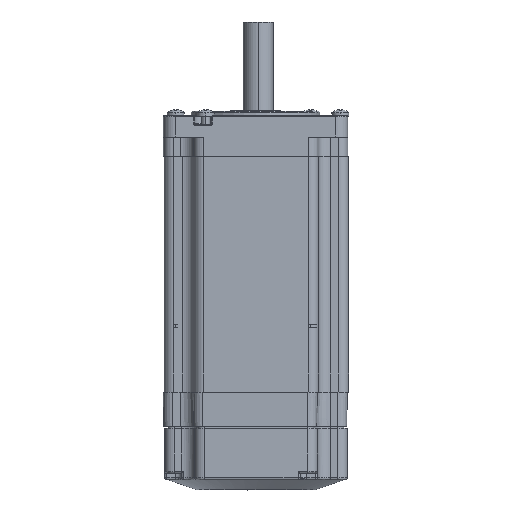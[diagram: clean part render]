
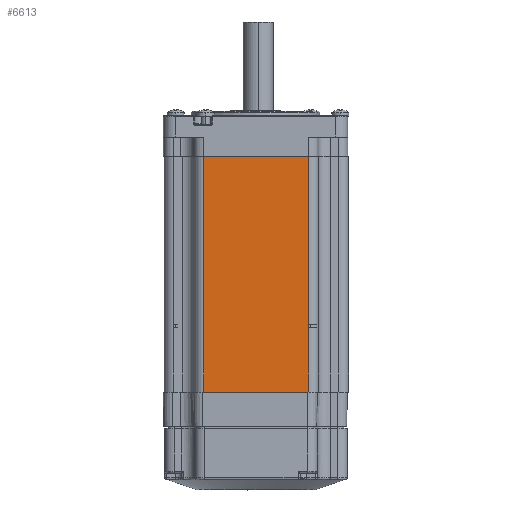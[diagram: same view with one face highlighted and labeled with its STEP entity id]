
A CAD part, front view. The second image highlights one B-rep face of the part: STEP entity #6613.
In plain terms, the highlighted planar face has unit normal (0, -1, 0).
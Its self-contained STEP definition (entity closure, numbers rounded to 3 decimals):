
#145 = ORIENTED_EDGE ( 'NONE', *, *, #56280, .T. ) ;
#2645 = CARTESIAN_POINT ( 'NONE',  ( -25.336, -41.348, -3.669 ) ) ;
#2894 = CARTESIAN_POINT ( 'NONE',  ( 23.664, -41.348, -3.669 ) ) ;
#3914 = LINE ( 'NONE', #15395, #40607 ) ;
#4253 = EDGE_CURVE ( 'NONE', #31290, #9864, #3914, .T. ) ;
#4847 = EDGE_LOOP ( 'NONE', ( #145, #41519, #6075, #53770 ) ) ;
#4949 = CARTESIAN_POINT ( 'NONE',  ( -25.336, -41.348, -3.669 ) ) ;
#5666 = VECTOR ( 'NONE', #38302, 1000. ) ;
#6075 = ORIENTED_EDGE ( 'NONE', *, *, #38426, .F. ) ;
#6613 = ADVANCED_FACE ( 'NONE', ( #25147 ), #19915, .T. ) ;
#9864 = VERTEX_POINT ( 'NONE', #49806 ) ;
#10376 = DIRECTION ( 'NONE',  ( 0., 0., -1. ) ) ;
#12632 = DIRECTION ( 'NONE',  ( -1., 0., 0. ) ) ;
#13147 = DIRECTION ( 'NONE',  ( 0., -1., 0. ) ) ;
#15395 = CARTESIAN_POINT ( 'NONE',  ( 33.664, -41.348, -113.669 ) ) ;
#19905 = CARTESIAN_POINT ( 'NONE',  ( -25.336, -41.348, -48.669 ) ) ;
#19915 = PLANE ( 'NONE',  #59448 ) ;
#22837 = DIRECTION ( 'NONE',  ( 0., 0., 1. ) ) ;
#25147 = FACE_OUTER_BOUND ( 'NONE', #4847, .T. ) ;
#26309 = LINE ( 'NONE', #50495, #38659 ) ;
#31290 = VERTEX_POINT ( 'NONE', #31704 ) ;
#31704 = CARTESIAN_POINT ( 'NONE',  ( 23.664, -41.348, -113.669 ) ) ;
#32402 = DIRECTION ( 'NONE',  ( -1., 0., 0. ) ) ;
#36074 = VERTEX_POINT ( 'NONE', #2894 ) ;
#36335 = VECTOR ( 'NONE', #32402, 1000. ) ;
#37788 = LINE ( 'NONE', #4949, #36335 ) ;
#38302 = DIRECTION ( 'NONE',  ( 0., 0., 1. ) ) ;
#38426 = EDGE_CURVE ( 'NONE', #9864, #56187, #42369, .T. ) ;
#38659 = VECTOR ( 'NONE', #22837, 1000. ) ;
#40607 = VECTOR ( 'NONE', #12632, 1000. ) ;
#41519 = ORIENTED_EDGE ( 'NONE', *, *, #48294, .T. ) ;
#42369 = LINE ( 'NONE', #51762, #5666 ) ;
#48294 = EDGE_CURVE ( 'NONE', #36074, #56187, #37788, .T. ) ;
#49806 = CARTESIAN_POINT ( 'NONE',  ( -25.336, -41.348, -113.669 ) ) ;
#50495 = CARTESIAN_POINT ( 'NONE',  ( 23.664, -41.348, -48.669 ) ) ;
#51762 = CARTESIAN_POINT ( 'NONE',  ( -25.336, -41.348, -48.669 ) ) ;
#53770 = ORIENTED_EDGE ( 'NONE', *, *, #4253, .F. ) ;
#56187 = VERTEX_POINT ( 'NONE', #2645 ) ;
#56280 = EDGE_CURVE ( 'NONE', #31290, #36074, #26309, .T. ) ;
#59448 = AXIS2_PLACEMENT_3D ( 'NONE', #19905, #13147, #10376 ) ;
